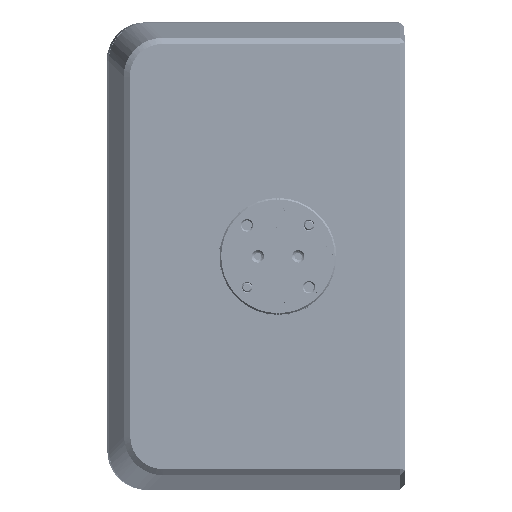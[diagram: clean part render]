
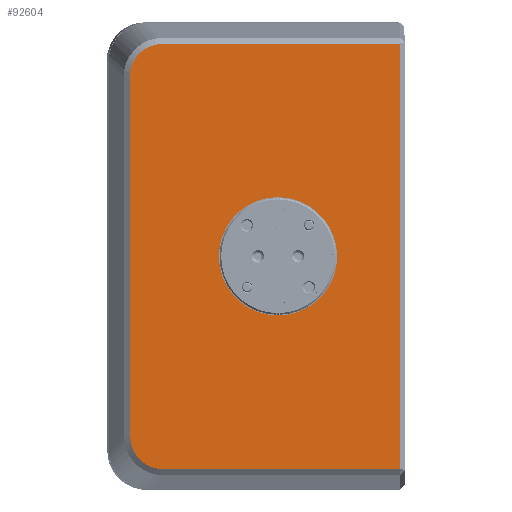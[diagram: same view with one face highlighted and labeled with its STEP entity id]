
A CAD part, left-side view. The second image highlights one B-rep face of the part: STEP entity #92604.
In plain terms, the highlighted planar face has unit normal (-1, -0.002, -0.001).
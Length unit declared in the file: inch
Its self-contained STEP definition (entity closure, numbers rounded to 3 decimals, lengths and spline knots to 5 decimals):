
#1332 = B_SPLINE_CURVE_WITH_KNOTS ( 'NONE', 3,
 ( #24514, #351666, #55611, #375160, #174599, #166860, #108386, #344024, #143357, #293259 ),
 .UNSPECIFIED., .F., .F.,
 ( 4, 2, 2, 2, 4 ),
 ( 0., 0.25, 0.5, 0.75, 1. ),
 .UNSPECIFIED. ) ;
#5737 = FACE_OUTER_BOUND ( 'NONE', #309504, .T. ) ;
#7640 = DIRECTION ( 'NONE',  ( 1., 0.002, 0.001 ) ) ;
#24514 = CARTESIAN_POINT ( 'NONE',  ( -1.59489, -6.87131, 0.04683 ) ) ;
#26592 = EDGE_CURVE ( 'NONE', #102382, #218796, #231954, .T. ) ;
#27155 = VERTEX_POINT ( 'NONE', #370933 ) ;
#29047 = ORIENTED_EDGE ( 'NONE', *, *, #277173, .T. ) ;
#29475 = ORIENTED_EDGE ( 'NONE', *, *, #173981, .T. ) ;
#34870 = CARTESIAN_POINT ( 'NONE',  ( -1.59511, -6.66266, -0.16236 ) ) ;
#36337 = CARTESIAN_POINT ( 'NONE',  ( -1.59489, -6.87131, 0.04683 ) ) ;
#40322 = CIRCLE ( 'NONE', #376065, 0.38 ) ;
#55611 = CARTESIAN_POINT ( 'NONE',  ( -1.59498, -6.81633, 0.04132 ) ) ;
#69230 = DIRECTION ( 'NONE',  ( 0.001, -0.001, -1. ) ) ;
#70663 = EDGE_CURVE ( 'NONE', #27155, #88440, #137149, .T. ) ;
#78863 = ORIENTED_EDGE ( 'NONE', *, *, #70663, .F. ) ;
#81700 = VERTEX_POINT ( 'NONE', #324724 ) ;
#83917 = CARTESIAN_POINT ( 'NONE',  ( -1.5918, -8.39923, -1.31627 ) ) ;
#85830 = B_SPLINE_CURVE_WITH_KNOTS ( 'NONE', 3,
 ( #177020, #326778, #204249, #295653, #116568, #140009, #322902, #87278, #143803, #377488 ),
 .UNSPECIFIED., .F., .F.,
 ( 4, 2, 2, 2, 4 ),
 ( 0., 0.25, 0.5, 0.75, 1. ),
 .UNSPECIFIED. ) ;
#87278 = CARTESIAN_POINT ( 'NONE',  ( -1.59356, -6.81985, -2.67797 ) ) ;
#88440 = VERTEX_POINT ( 'NONE', #130381 ) ;
#92604 = ADVANCED_FACE ( 'NONE', ( #274372, #5737 ), #336751, .F. ) ;
#98482 = CARTESIAN_POINT ( 'NONE',  ( -1.59451, -6.66416, -1.31852 ) ) ;
#100040 = ORIENTED_EDGE ( 'NONE', *, *, #191005, .T. ) ;
#100681 = DIRECTION ( 'NONE',  ( -0.002, 1., -0.001 ) ) ;
#102382 = VERTEX_POINT ( 'NONE', #129065 ) ;
#108386 = CARTESIAN_POINT ( 'NONE',  ( -1.59513, -6.68876, -0.05687 ) ) ;
#116568 = CARTESIAN_POINT ( 'NONE',  ( -1.59378, -6.70755, -2.60331 ) ) ;
#129065 = CARTESIAN_POINT ( 'NONE',  ( -1.59109, -8.401, -2.68134 ) ) ;
#129911 = CARTESIAN_POINT ( 'NONE',  ( -1.59395, -7.47747, 0.04762 ) ) ;
#130381 = CARTESIAN_POINT ( 'NONE',  ( -1.59322, -7.61374, -0.93729 ) ) ;
#132778 = VERTEX_POINT ( 'NONE', #36337 ) ;
#137149 = CIRCLE ( 'NONE', #323642, 0.38 ) ;
#140009 = CARTESIAN_POINT ( 'NONE',  ( -1.5937, -6.7461, -2.64177 ) ) ;
#143357 = CARTESIAN_POINT ( 'NONE',  ( -1.59513, -6.66262, -0.13482 ) ) ;
#143803 = CARTESIAN_POINT ( 'NONE',  ( -1.59352, -6.84731, -2.68336 ) ) ;
#149170 = CARTESIAN_POINT ( 'NONE',  ( -1.59251, -8.39746, 0.04881 ) ) ;
#159592 = CARTESIAN_POINT ( 'NONE',  ( -1.59324, -7.47924, -1.31746 ) ) ;
#163723 = VECTOR ( 'NONE', #201066, 39.37008 ) ;
#166860 = CARTESIAN_POINT ( 'NONE',  ( -1.59511, -6.70421, -0.03361 ) ) ;
#173981 = EDGE_CURVE ( 'NONE', #252662, #310444, #336109, .T. ) ;
#174599 = CARTESIAN_POINT ( 'NONE',  ( -1.59507, -6.74267, 0.00494 ) ) ;
#175718 = EDGE_CURVE ( 'NONE', #88440, #27155, #40322, .T. ) ;
#177020 = CARTESIAN_POINT ( 'NONE',  ( -1.59391, -6.66566, -2.47467 ) ) ;
#191005 = EDGE_CURVE ( 'NONE', #81700, #102382, #348915, .T. ) ;
#191790 = EDGE_CURVE ( 'NONE', #218796, #132778, #213856, .T. ) ;
#201066 = DIRECTION ( 'NONE',  ( 0.002, -1., 0.001 ) ) ;
#201264 = CARTESIAN_POINT ( 'NONE',  ( -1.59303, -7.61424, -1.31728 ) ) ;
#204249 = CARTESIAN_POINT ( 'NONE',  ( -1.59387, -6.67116, -2.52965 ) ) ;
#213086 = VECTOR ( 'NONE', #69230, 39.37008 ) ;
#213856 = LINE ( 'NONE', #129911, #224048 ) ;
#218796 = VERTEX_POINT ( 'NONE', #149170 ) ;
#224048 = VECTOR ( 'NONE', #100681, 39.37008 ) ;
#231954 = LINE ( 'NONE', #83917, #375775 ) ;
#252662 = VERTEX_POINT ( 'NONE', #34870 ) ;
#253792 = DIRECTION ( 'NONE',  ( -1., -0.002, -0.001 ) ) ;
#255684 = DIRECTION ( 'NONE',  ( -0.001, 0.001, 1. ) ) ;
#257404 = CARTESIAN_POINT ( 'NONE',  ( -1.59253, -7.48101, -2.68254 ) ) ;
#259161 = DIRECTION ( 'NONE',  ( -0.001, 0.001, 1. ) ) ;
#268372 = DIRECTION ( 'NONE',  ( -0.001, 0.001, 1. ) ) ;
#273153 = ORIENTED_EDGE ( 'NONE', *, *, #175718, .F. ) ;
#274372 = FACE_BOUND ( 'NONE', #358969, .T. ) ;
#277173 = EDGE_CURVE ( 'NONE', #132778, #252662, #1332, .T. ) ;
#279061 = AXIS2_PLACEMENT_3D ( 'NONE', #159592, #7640, #332886 ) ;
#293259 = CARTESIAN_POINT ( 'NONE',  ( -1.59511, -6.66266, -0.16236 ) ) ;
#295433 = ORIENTED_EDGE ( 'NONE', *, *, #26592, .T. ) ;
#295653 = CARTESIAN_POINT ( 'NONE',  ( -1.59381, -6.69203, -2.5801 ) ) ;
#297641 = CARTESIAN_POINT ( 'NONE',  ( -1.59303, -7.61424, -1.31728 ) ) ;
#304818 = CARTESIAN_POINT ( 'NONE',  ( -1.59391, -6.66566, -2.47467 ) ) ;
#309504 = EDGE_LOOP ( 'NONE', ( #336533, #100040, #295433, #382451, #29047, #29475 ) ) ;
#310444 = VERTEX_POINT ( 'NONE', #304818 ) ;
#322902 = CARTESIAN_POINT ( 'NONE',  ( -1.59365, -6.76936, -2.65723 ) ) ;
#323642 = AXIS2_PLACEMENT_3D ( 'NONE', #297641, #326838, #268372 ) ;
#324724 = CARTESIAN_POINT ( 'NONE',  ( -1.59347, -6.87485, -2.68332 ) ) ;
#325025 = EDGE_CURVE ( 'NONE', #310444, #81700, #85830, .T. ) ;
#326778 = CARTESIAN_POINT ( 'NONE',  ( -1.59389, -6.66569, -2.50216 ) ) ;
#326838 = DIRECTION ( 'NONE',  ( -1., -0.002, -0.001 ) ) ;
#332886 = DIRECTION ( 'NONE',  ( 0.001, -0.001, -1. ) ) ;
#336109 = LINE ( 'NONE', #98482, #213086 ) ;
#336533 = ORIENTED_EDGE ( 'NONE', *, *, #325025, .T. ) ;
#336751 = PLANE ( 'NONE',  #279061 ) ;
#344024 = CARTESIAN_POINT ( 'NONE',  ( -1.59513, -6.66802, -0.10736 ) ) ;
#348915 = LINE ( 'NONE', #257404, #163723 ) ;
#351666 = CARTESIAN_POINT ( 'NONE',  ( -1.59494, -6.84382, 0.0468 ) ) ;
#358969 = EDGE_LOOP ( 'NONE', ( #273153, #78863 ) ) ;
#370933 = CARTESIAN_POINT ( 'NONE',  ( -1.59283, -7.61473, -1.69728 ) ) ;
#375160 = CARTESIAN_POINT ( 'NONE',  ( -1.59505, -6.76588, 0.02046 ) ) ;
#375775 = VECTOR ( 'NONE', #259161, 39.37008 ) ;
#376065 = AXIS2_PLACEMENT_3D ( 'NONE', #201264, #253792, #255684 ) ;
#377488 = CARTESIAN_POINT ( 'NONE',  ( -1.59347, -6.87485, -2.68332 ) ) ;
#382451 = ORIENTED_EDGE ( 'NONE', *, *, #191790, .T. ) ;
